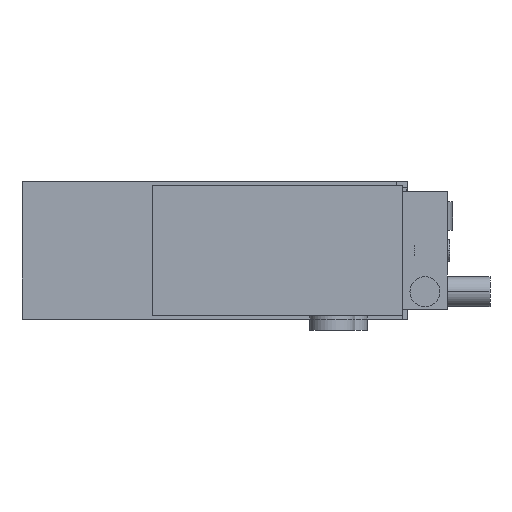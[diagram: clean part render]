
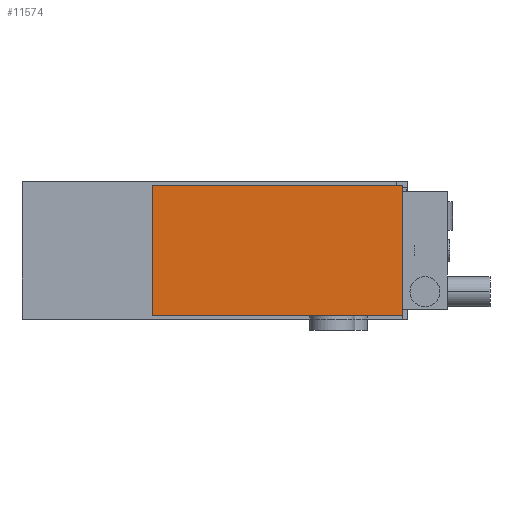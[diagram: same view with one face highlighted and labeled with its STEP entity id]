
A CAD part, front view. The second image highlights one B-rep face of the part: STEP entity #11574.
In plain terms, the highlighted planar face has unit normal (0, -1, 0).
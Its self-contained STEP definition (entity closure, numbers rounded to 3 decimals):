
#34 = CARTESIAN_POINT ( 'NONE',  ( 50., -103., 26. ) ) ;
#170 = EDGE_CURVE ( 'NONE', #4961, #2002, #11300, .T. ) ;
#248 = FACE_OUTER_BOUND ( 'NONE', #4290, .T. ) ;
#399 = CARTESIAN_POINT ( 'NONE',  ( 50., -103., 26. ) ) ;
#1239 = VECTOR ( 'NONE', #4246, 1000. ) ;
#1285 = AXIS2_PLACEMENT_3D ( 'NONE', #8789, #2889, #6635 ) ;
#1391 = DIRECTION ( 'NONE',  ( -1., 0., 0. ) ) ;
#2002 = VERTEX_POINT ( 'NONE', #5622 ) ;
#2164 = CARTESIAN_POINT ( 'NONE',  ( -50., -103., 26. ) ) ;
#2889 = DIRECTION ( 'NONE',  ( 0., -1., 0. ) ) ;
#3366 = PLANE ( 'NONE',  #1285 ) ;
#3653 = VECTOR ( 'NONE', #1391, 1000. ) ;
#3695 = VERTEX_POINT ( 'NONE', #34 ) ;
#3894 = EDGE_CURVE ( 'NONE', #3695, #4961, #6394, .T. ) ;
#4246 = DIRECTION ( 'NONE',  ( 1., 0., 0. ) ) ;
#4290 = EDGE_LOOP ( 'NONE', ( #4553, #8773, #5664, #7276 ) ) ;
#4553 = ORIENTED_EDGE ( 'NONE', *, *, #170, .T. ) ;
#4793 = VECTOR ( 'NONE', #12793, 1000. ) ;
#4961 = VERTEX_POINT ( 'NONE', #5992 ) ;
#5231 = CARTESIAN_POINT ( 'NONE',  ( -50., -103., -26. ) ) ;
#5622 = CARTESIAN_POINT ( 'NONE',  ( -50., -103., -26. ) ) ;
#5664 = ORIENTED_EDGE ( 'NONE', *, *, #7088, .T. ) ;
#5983 = DIRECTION ( 'NONE',  ( 0., 0., -1. ) ) ;
#5992 = CARTESIAN_POINT ( 'NONE',  ( -50., -103., 26. ) ) ;
#6195 = EDGE_CURVE ( 'NONE', #2002, #9680, #12494, .T. ) ;
#6364 = CARTESIAN_POINT ( 'NONE',  ( -50., -103., 26. ) ) ;
#6394 = LINE ( 'NONE', #2164, #3653 ) ;
#6614 = CARTESIAN_POINT ( 'NONE',  ( 50., -103., -26. ) ) ;
#6635 = DIRECTION ( 'NONE',  ( 0., 0., -1. ) ) ;
#7088 = EDGE_CURVE ( 'NONE', #9680, #3695, #13476, .T. ) ;
#7276 = ORIENTED_EDGE ( 'NONE', *, *, #3894, .T. ) ;
#8773 = ORIENTED_EDGE ( 'NONE', *, *, #6195, .T. ) ;
#8789 = CARTESIAN_POINT ( 'NONE',  ( 0., -103., 0. ) ) ;
#9680 = VERTEX_POINT ( 'NONE', #6614 ) ;
#11300 = LINE ( 'NONE', #6364, #12908 ) ;
#11574 = ADVANCED_FACE ( 'NONE', ( #248 ), #3366, .T. ) ;
#12494 = LINE ( 'NONE', #5231, #1239 ) ;
#12793 = DIRECTION ( 'NONE',  ( 0., 0., 1. ) ) ;
#12908 = VECTOR ( 'NONE', #5983, 1000. ) ;
#13476 = LINE ( 'NONE', #399, #4793 ) ;
